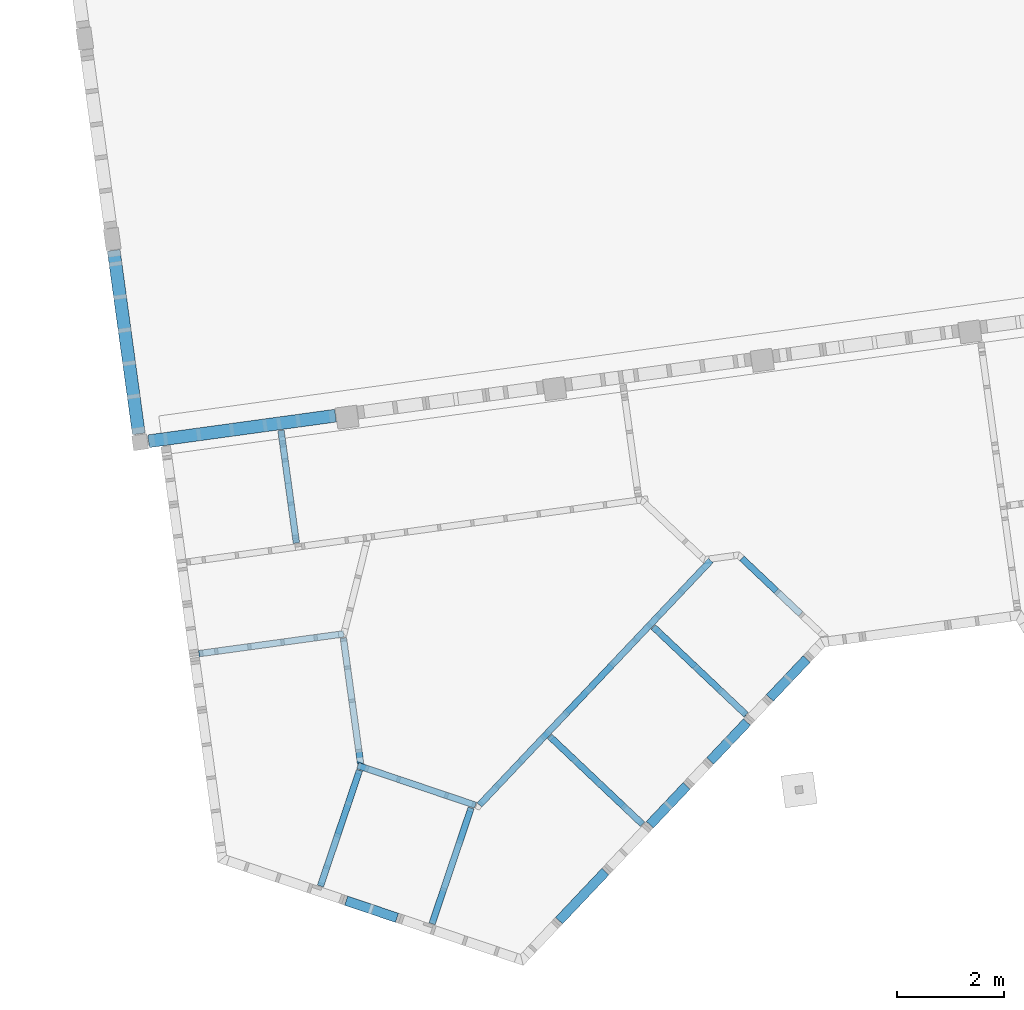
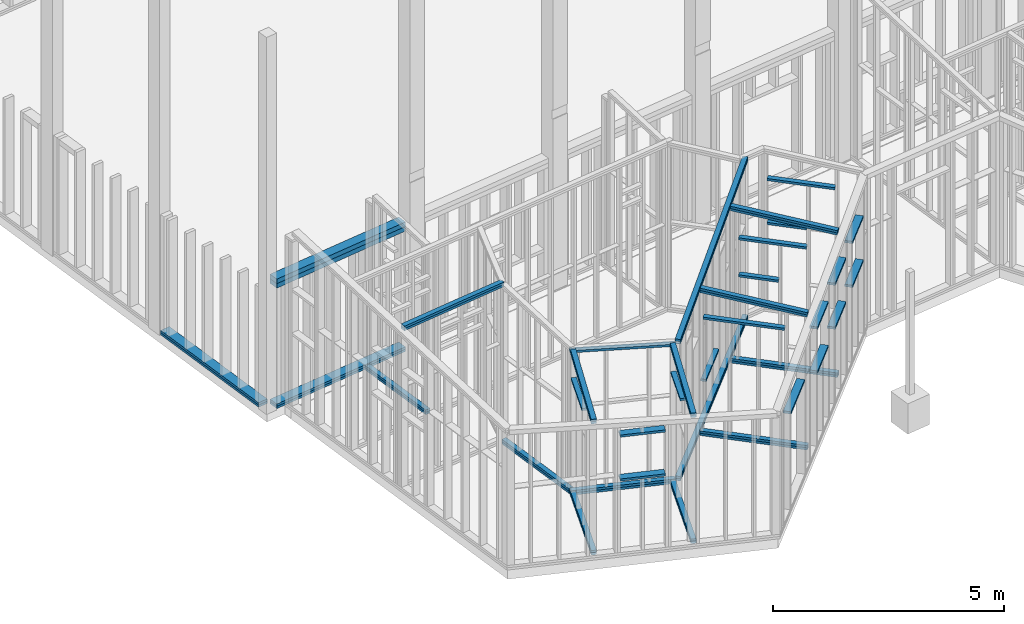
# One storey, part 10 of 24: 52 beams.
"""IFC2X3 building model written with IfcOpenShell, lengths in metres."""

from ifc_helpers import new_model, entity, si_unit, converted_unit, derived_unit, money_unit, direction, frame, frame_2d, origin_with_axes, place, context, subcontext, project, spatial, rectangle, extrude, clip, halfspace, material, type_object, element, save


model = new_model("IFC2X3")

# Units and contexts
model_context = context("Model", 3, precision=1e-05, world=origin_with_axes(), true_north=direction((0.0, 1.0)))
body_context = subcontext(model_context, "Body", "Model", "MODEL_VIEW")
ifc_project = project(units=[si_unit("LENGTHUNIT", "METRE"), si_unit("AREAUNIT", "SQUARE_METRE"), si_unit("VOLUMEUNIT", "CUBIC_METRE"), converted_unit("PLANEANGLEUNIT", "DEGREE", entity("IfcPlaneAngleMeasure", 0.0174532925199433), si_unit("PLANEANGLEUNIT", "RADIAN"), dimensions=[0, 0, 0, 0, 0, 0, 0]), money_unit("EUR"), converted_unit("TIMEUNIT", "Year", entity("IfcTimeMeasure", 31557600.0), si_unit("TIMEUNIT", "SECOND"), dimensions=[0, 0, 1, 0, 0, 0, 0]), si_unit("MASSUNIT", "GRAM", prefix="KILO"), si_unit("THERMODYNAMICTEMPERATUREUNIT", "DEGREE_CELSIUS"), si_unit("LUMINOUSINTENSITYUNIT", "LUMEN"), si_unit("ENERGYUNIT", "JOULE", prefix="MEGA"), derived_unit("THERMALCONDUCTANCEUNIT", [(si_unit("POWERUNIT", "WATT"), 1), (si_unit("LENGTHUNIT", "METRE"), -1), (si_unit("THERMODYNAMICTEMPERATUREUNIT", "KELVIN"), -1)]), derived_unit("SPECIFICHEATCAPACITYUNIT", [(si_unit("ENERGYUNIT", "JOULE"), 1), (si_unit("MASSUNIT", "GRAM", prefix="KILO"), -1), (si_unit("THERMODYNAMICTEMPERATUREUNIT", "KELVIN"), -1)]), derived_unit("MASSDENSITYUNIT", [(si_unit("MASSUNIT", "GRAM", prefix="KILO"), 1), (si_unit("VOLUMEUNIT", "CUBIC_METRE"), -1)])], contexts=[model_context])

# Site, building, storey
site_placement = place(None, origin_with_axes())
site = spatial("IfcSite", under=ifc_project, at=site_placement, Name="Gelände", CompositionType="ELEMENT")
building_placement = place(site_placement, origin_with_axes())
building = spatial("IfcBuilding", under=site, at=building_placement, Name="Gebäude", CompositionType="ELEMENT")
storey_placement = place(building_placement, origin_with_axes())
storey = spatial("IfcBuildingStorey", under=building, at=storey_placement, Name="EG", CompositionType="ELEMENT", Elevation=0.0)

# Beams
ifc_material_1 = material(Name="Bauholz")
beam_type_1 = type_object("IfcBeamType", Name="Bauholz 120 x 60", PredefinedType="NOTDEFINED")
beam_1_placement = place(storey_placement, frame((90.67211713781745, -157.198762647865, 3.000658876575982), z_axis=(0.0, 0.0, 1.0), x_axis=(-0.9474861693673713, 0.3197967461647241, 0.0)))
element("IfcBeam", 1, at=beam_1_placement, inside=storey, type_object=beam_type_1, material=ifc_material_1, Name="Unterzug-021", context=body_context, shape_type="SweptSolid", body=[
    extrude(rectangle(XDim=0.06, YDim=0.12, at=frame_2d((-0.03, 0.0), x_axis=(1.0, 0.0))), frame((0.0, 0.0, 0.0), z_axis=(0.0, 1.0, 0.0), x_axis=(0.0, 0.0, 1.0)), (0.0, 0.0, 1.0), 1.19000000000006),
])
beam_2_placement = place(storey_placement, frame((97.40844101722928, -155.6272383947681, 3.172366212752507), z_axis=(0.0, 0.0, 1.0), x_axis=(0.6874340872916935, 0.7262467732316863, 0.0)))
element("IfcBeam", 2, at=beam_2_placement, inside=storey, type_object=beam_type_1, material=ifc_material_1, Name="Unterzug-021", context=body_context, shape_type="SweptSolid", body=[
    extrude(rectangle(XDim=0.06, YDim=0.12, at=frame_2d((-0.03, 0.0), x_axis=(1.0, 0.0))), frame((0.0, 0.0, 0.0), z_axis=(0.0, 1.0, 0.0), x_axis=(0.0, 0.0, 1.0)), (0.0, 0.0, 1.0), 1.51000000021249),
])
beam_3_placement = place(storey_placement, frame((97.83368819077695, -153.1826701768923, 3.354346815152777), z_axis=(0.0, 0.0, 1.0), x_axis=(-0.68743409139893, -0.7262467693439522, 0.0)))
element("IfcBeam", 3, at=beam_3_placement, inside=storey, type_object=beam_type_1, material=ifc_material_1, Name="Unterzug-021", context=body_context, shape_type="SweptSolid", body=[
    extrude(rectangle(XDim=0.06, YDim=0.12, at=frame_2d((-0.03, 0.0), x_axis=(1.0, 0.0))), frame((0.0, 0.0, 0.0), z_axis=(0.0, 1.0, 0.0), x_axis=(0.0, 0.0, 1.0)), (0.0, 0.0, 1.0), 1.509999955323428),
])
beam_4_placement = place(storey_placement, frame((92.42188262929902, -158.8936245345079, 2.862945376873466), z_axis=(0.0, 0.0, 1.0), x_axis=(0.9474859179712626, -0.3197974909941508, 0.0)))
element("IfcBeam", 4, at=beam_4_placement, inside=storey, type_object=beam_type_1, material=ifc_material_1, Name="Unterzug-021", context=body_context, shape_type="SweptSolid", body=[
    extrude(rectangle(XDim=0.06, YDim=0.12, at=frame_2d((-0.03, 0.0), x_axis=(1.0, 0.0))), frame((0.0, 0.0, 0.0), z_axis=(0.0, 1.0, 0.0), x_axis=(0.0, 0.0, 1.0)), (0.0, 0.0, 1.0), 1.046287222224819),
])
beam_5_placement = place(storey_placement, frame((97.8336881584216, -153.182670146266, 2.195), z_axis=(0.0, 0.0, 1.0), x_axis=(-0.687434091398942, -0.7262467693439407, 0.0)))
element("IfcBeam", 5, at=beam_5_placement, inside=storey, type_object=beam_type_1, material=ifc_material_1, Name="Unterzug-021", context=body_context, shape_type="SweptSolid", body=[
    extrude(rectangle(XDim=0.06, YDim=0.12, at=frame_2d((-0.03, 0.0), x_axis=(1.0, 0.0))), frame((0.0, 0.0, 0.0), z_axis=(0.0, 1.0, 0.0), x_axis=(0.0, 0.0, 1.0)), (0.0, 0.0, 1.0), 0.8849999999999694),
])
beam_6_placement = place(storey_placement, frame((89.22474285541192, -150.7927194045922, -0.04300000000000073), z_axis=(0.0, 0.0, 1.0), x_axis=(-0.9907484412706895, -0.1357111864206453, 0.0)))
element("IfcBeam", 6, at=beam_6_placement, inside=storey, type_object=beam_type_1, material=ifc_material_1, Name="Unterzug-021", context=body_context, shape_type="SweptSolid", body=[
    extrude(rectangle(XDim=0.06, YDim=0.12, at=frame_2d((-0.03, 0.0), x_axis=(1.0, 0.0))), frame((0.0, 0.0, 0.0), z_axis=(0.0, 1.0, 0.0), x_axis=(0.0, 0.0, 1.0)), (0.0, 0.0, 1.0), 2.123133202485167),
])
beam_7_placement = place(storey_placement, frame((90.39695555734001, -154.5919188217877, 4.069764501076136), z_axis=(0.0, 0.0, 1.0), x_axis=(-0.1357111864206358, 0.9907484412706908, 0.0)))
element("IfcBeam", 7, at=beam_7_placement, inside=storey, type_object=beam_type_1, material=ifc_material_1, Name="Unterzug-021", context=body_context, shape_type="SweptSolid", body=[
    extrude(rectangle(XDim=0.06, YDim=0.12, at=frame_2d((-0.03, 0.0), x_axis=(1.0, 0.0))), frame((0.0, 0.0, 0.0), z_axis=(0.0, 1.0, 0.0), x_axis=(0.0, 0.0, 1.0)), (0.0, 0.0, 1.0), 2.730693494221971),
])
beam_8_placement = place(storey_placement, frame((90.39012743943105, -154.6685544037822, -0.04300000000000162), z_axis=(0.0, 0.0, 1.0), x_axis=(-0.9907484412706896, -0.1357111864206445, 0.0)))
element("IfcBeam", 8, at=beam_8_placement, inside=storey, type_object=beam_type_1, material=ifc_material_1, Name="Unterzug-021", context=body_context, shape_type="SweptSolid", body=[
    extrude(rectangle(XDim=0.06, YDim=0.12, at=frame_2d((-0.03, 0.0), x_axis=(1.0, 0.0))), frame((0.0, 0.0, 0.0), z_axis=(0.0, 1.0, 0.0), x_axis=(0.0, 0.0, 1.0)), (0.0, 0.0, 1.0), 2.372204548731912),
])
beam_9_placement = place(storey_placement, frame((90.69130494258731, -157.141913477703, -0.04300000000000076), z_axis=(0.0, 0.0, 1.0), x_axis=(-0.9474861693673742, 0.319796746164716, 0.0)))
element("IfcBeam", 9, at=beam_9_placement, inside=storey, type_object=beam_type_1, material=ifc_material_1, Name="Unterzug-021", context=body_context, shape_type="SweptSolid", body=[
    extrude(rectangle(XDim=0.06, YDim=0.12, at=frame_2d((-0.03, 0.0), x_axis=(1.0, 0.0))), frame((0.0, 0.0, 0.0), z_axis=(0.0, 1.0, 0.0), x_axis=(0.0, 0.0, 1.0)), (0.0, 0.0, 1.0), 2.280565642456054),
])
beam_10_placement = place(storey_placement, frame((90.69176464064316, -157.1405486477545, 3.709268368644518), z_axis=(0.0, 0.0, 1.0), x_axis=(-0.9474861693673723, 0.3197967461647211, 0.0)))
element("IfcBeam", 10, at=beam_10_placement, inside=storey, type_object=beam_type_1, material=ifc_material_1, Name="Unterzug-021", context=body_context, shape_type="Clipping", body=[
    clip(clip(extrude(rectangle(XDim=0.06, YDim=0.12, at=frame_2d((-0.03, 0.0), x_axis=(1.0, 0.0))), frame((0.0, -0.02118675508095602, 0.002665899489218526), z_axis=(0.0, 0.9921763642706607, -0.1248441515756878), x_axis=(0.0, 0.1248441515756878, 0.9921763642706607)), (0.0, 0.0, 1.0), 2.343707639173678), halfspace(frame((0.0, 0.0, 0.0), z_axis=(0.0, 1.0, 0.0), x_axis=(0.0, 0.0, 1.0)), True)), halfspace(frame((0.0, 2.282997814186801, 0.0), z_axis=(0.0, -1.0, 0.0), x_axis=(0.0, 0.0, -1.0)), True)),
])
beam_11_placement = place(storey_placement, frame((90.65844060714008, -157.0516641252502, -0.04300000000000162), z_axis=(0.0, 0.0, 1.0), x_axis=(-0.3197980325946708, -0.9474857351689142, 0.0)))
element("IfcBeam", 11, at=beam_11_placement, inside=storey, type_object=beam_type_1, material=ifc_material_1, Name="Unterzug-021", context=body_context, shape_type="SweptSolid", body=[
    extrude(rectangle(XDim=0.06, YDim=0.12, at=frame_2d((-0.03, 0.0), x_axis=(1.0, 0.0))), frame((0.0, 0.0, 0.0), z_axis=(0.0, 1.0, 0.0), x_axis=(0.0, 0.0, 1.0)), (0.0, 0.0, 1.0), 2.319890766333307),
])
beam_12_placement = place(storey_placement, frame((92.04635132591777, -160.0062368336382, -0.04300000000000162), z_axis=(0.0, 0.0, 1.0), x_axis=(0.9474859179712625, -0.3197974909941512, 0.0)))
element("IfcBeam", 12, at=beam_12_placement, inside=storey, type_object=beam_type_1, material=ifc_material_1, Name="Unterzug-021", context=body_context, shape_type="SweptSolid", body=[
    extrude(rectangle(XDim=0.06, YDim=0.12, at=frame_2d((-0.03, 0.0), x_axis=(1.0, 0.0))), frame((0.0, 0.0, 0.0), z_axis=(0.0, 1.0, 0.0), x_axis=(0.0, 0.0, 1.0)), (0.0, 0.0, 1.0), 2.280565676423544),
])
beam_13_placement = place(storey_placement, frame((92.04603296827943, -160.0071765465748, 3.28428780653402), z_axis=(0.0, 0.0, 1.0), x_axis=(0.9474859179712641, -0.3197974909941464, 0.0)))
element("IfcBeam", 13, at=beam_13_placement, inside=storey, type_object=beam_type_1, material=ifc_material_1, Name="Unterzug-021", context=body_context, shape_type="Clipping", body=[
    clip(clip(extrude(rectangle(XDim=0.06, YDim=0.12, at=frame_2d((-0.03, 0.0), x_axis=(1.0, 0.0))), frame((0.0, -0.02118682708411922, -0.002665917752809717), z_axis=(0.0, 0.9921763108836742, 0.1248445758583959), x_axis=(0.0, -0.1248445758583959, 0.9921763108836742)), (0.0, 0.0, 1.0), 2.343707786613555), halfspace(frame((0.0, 0.0, 0.0), z_axis=(0.0, 1.0, 0.0), x_axis=(0.0, 0.0, 1.0)), True)), halfspace(frame((0.0, 2.282997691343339, 0.0), z_axis=(0.0, -1.0, 0.0), x_axis=(0.0, 0.0, -1.0)), True)),
])
beam_14_placement = place(storey_placement, frame((92.93102075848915, -157.7887322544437, 3.576305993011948), z_axis=(0.0, 0.0, 1.0), x_axis=(0.7262467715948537, -0.6874340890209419, 0.0)))
element("IfcBeam", 14, at=beam_14_placement, inside=storey, type_object=beam_type_1, material=ifc_material_1, Name="Unterzug-021", context=body_context, shape_type="Clipping", body=[
    clip(clip(extrude(rectangle(XDim=0.06, YDim=0.12, at=frame_2d((-0.03, 0.0), x_axis=(1.0, 0.0))), frame((0.0, -0.0148785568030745, -0.001309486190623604), z_axis=(0.0, 0.9961493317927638, 0.0876727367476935), x_axis=(0.0, -0.0876727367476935, 0.9961493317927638)), (0.0, 0.0, 1.0), 6.342872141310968), halfspace(frame((0.0, 0.0, 0.0), z_axis=(0.0, 1.0, 0.0), x_axis=(0.0, 0.0, 1.0)), True)), halfspace(frame((0.0, 6.288690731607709, 0.0), z_axis=(0.0, -1.0, 0.0), x_axis=(0.0, 0.0, -1.0)), True)),
])
beam_15_placement = place(storey_placement, frame((92.93170554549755, -157.7880088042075, -0.04300000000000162), z_axis=(0.0, 0.0, 1.0), x_axis=(0.7262467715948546, -0.6874340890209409, 0.0)))
element("IfcBeam", 15, at=beam_15_placement, inside=storey, type_object=beam_type_1, material=ifc_material_1, Name="Unterzug-021", context=body_context, shape_type="SweptSolid", body=[
    extrude(rectangle(XDim=0.06, YDim=0.12, at=frame_2d((-0.03, 0.0), x_axis=(1.0, 0.0))), frame((0.0, 0.0, 0.0), z_axis=(0.0, 1.0, 0.0), x_axis=(0.0, 0.0, 1.0)), (0.0, 0.0, 1.0), 6.286692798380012),
])
beam_16_placement = place(storey_placement, frame((95.97797870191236, -158.1493170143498, 3.467983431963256), z_axis=(0.0, 0.0, 1.0), x_axis=(0.6874340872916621, 0.726246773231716, 0.0)))
element("IfcBeam", 16, at=beam_16_placement, inside=storey, type_object=beam_type_1, material=ifc_material_1, Name="Unterzug-021", context=body_context, shape_type="Clipping", body=[
    clip(clip(extrude(rectangle(XDim=0.06, YDim=0.12, at=frame_2d((-0.03, 0.0), x_axis=(1.0, 0.0))), frame((0.0, -0.01848409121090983, -0.002025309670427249), z_axis=(0.0, 0.9940506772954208, 0.1089185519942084), x_axis=(0.0, -0.1089185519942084, 0.9940506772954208)), (0.0, 0.0, 1.0), 2.438189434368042), halfspace(frame((0.0, 0.0, 0.0), z_axis=(0.0, 1.0, 0.0), x_axis=(0.0, 0.0, 1.0)), True)), halfspace(frame((0.0, 2.386715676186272, 0.0), z_axis=(0.0, -1.0, 0.0), x_axis=(0.0, 0.0, -1.0)), True)),
])
beam_17_placement = place(storey_placement, frame((95.97739476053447, -158.1487642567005, -0.0430000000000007), z_axis=(0.0, 0.0, 1.0), x_axis=(0.6874340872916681, 0.7262467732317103, 0.0)))
element("IfcBeam", 17, at=beam_17_placement, inside=storey, type_object=beam_type_1, material=ifc_material_1, Name="Unterzug-021", context=body_context, shape_type="SweptSolid", body=[
    extrude(rectangle(XDim=0.06, YDim=0.12, at=frame_2d((-0.03, 0.0), x_axis=(1.0, 0.0))), frame((0.0, 0.0, 0.0), z_axis=(0.0, 1.0, 0.0), x_axis=(0.0, 0.0, 1.0)), (0.0, 0.0, 1.0), 2.384917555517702),
])
beam_18_placement = place(storey_placement, frame((97.91252172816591, -156.104379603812, -0.04300000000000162), z_axis=(0.0, 0.0, 1.0), x_axis=(0.687434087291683, 0.7262467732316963, 0.0)))
element("IfcBeam", 18, at=beam_18_placement, inside=storey, type_object=beam_type_1, material=ifc_material_1, Name="Unterzug-021", context=body_context, shape_type="SweptSolid", body=[
    extrude(rectangle(XDim=0.06, YDim=0.12, at=frame_2d((-0.03, 0.0), x_axis=(1.0, 0.0))), frame((0.0, 0.0, 0.0), z_axis=(0.0, 1.0, 0.0), x_axis=(0.0, 0.0, 1.0)), (0.0, 0.0, 1.0), 2.384917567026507),
])
beam_19_placement = place(storey_placement, frame((97.91310573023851, -156.1049323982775, 3.715736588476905), z_axis=(0.0, 0.0, 1.0), x_axis=(0.6874340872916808, 0.7262467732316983, 0.0)))
element("IfcBeam", 19, at=beam_19_placement, inside=storey, type_object=beam_type_1, material=ifc_material_1, Name="Unterzug-021", context=body_context, shape_type="Clipping", body=[
    clip(clip(extrude(rectangle(XDim=0.06, YDim=0.12, at=frame_2d((-0.03, 0.0), x_axis=(1.0, 0.0))), frame((0.0, -0.01848403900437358, -0.002025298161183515), z_axis=(0.0, 0.9940507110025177, 0.1089182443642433), x_axis=(0.0, -0.1089182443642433, 0.9940507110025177)), (0.0, 0.0, 1.0), 2.43818932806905), halfspace(frame((0.0, 0.0, 0.0), z_axis=(0.0, 1.0, 0.0), x_axis=(0.0, 0.0, 1.0)), True)), halfspace(frame((0.0, 2.386715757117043, 0.0), z_axis=(0.0, -1.0, 0.0), x_axis=(0.0, 0.0, -1.0)), True)),
])
beam_20_placement = place(storey_placement, frame((96.95453678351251, -155.1975920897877, 2.195), z_axis=(0.0, 0.0, 1.0), x_axis=(0.6874340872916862, 0.7262467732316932, 0.0)))
element("IfcBeam", 20, at=beam_20_placement, inside=storey, type_object=beam_type_1, material=ifc_material_1, Name="Unterzug-021", context=body_context, shape_type="SweptSolid", body=[
    extrude(rectangle(XDim=0.06, YDim=0.12, at=frame_2d((-0.03, 0.0), x_axis=(1.0, 0.0))), frame((0.0, 0.0, 0.0), z_axis=(0.0, 1.0, 0.0), x_axis=(0.0, 0.0, 1.0)), (0.0, 0.0, 1.0), 0.8850000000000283),
])
beam_21_placement = place(storey_placement, frame((95.60706878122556, -157.7982295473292, 2.974614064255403), z_axis=(0.0, 0.0, 1.0), x_axis=(0.6874340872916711, 0.7262467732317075, 0.0)))
element("IfcBeam", 21, at=beam_21_placement, inside=storey, type_object=beam_type_1, material=ifc_material_1, Name="Unterzug-021", context=body_context, shape_type="SweptSolid", body=[
    extrude(rectangle(XDim=0.06, YDim=0.12, at=frame_2d((-0.03, 0.0), x_axis=(1.0, 0.0))), frame((0.0, 0.0, 0.0), z_axis=(0.0, 1.0, 0.0), x_axis=(0.0, 0.0, 1.0)), (0.0, 0.0, 1.0), 1.815000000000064),
])
beam_22_placement = place(storey_placement, frame((94.57527869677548, -156.0516391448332, 0.8919999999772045), z_axis=(0.0, 0.0, 1.0), x_axis=(0.7262467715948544, -0.6874340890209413, 0.0)))
element("IfcBeam", 22, at=beam_22_placement, inside=storey, type_object=beam_type_1, material=ifc_material_1, Name="Unterzug-021", context=body_context, shape_type="SweptSolid", body=[
    extrude(rectangle(XDim=0.06, YDim=0.12, at=frame_2d((-0.03, 0.0), x_axis=(1.0, 0.0))), frame((0.0, 0.0, 0.0), z_axis=(0.0, 1.0, 0.0), x_axis=(0.0, 0.0, 1.0)), (0.0, 0.0, 1.0), 1.189999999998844),
])
ifc_material_2 = material(Name="Holz, Bauholz")
beam_type_2 = type_object("IfcBeamType", Name="Holz, Bauholz 240 x 60", PredefinedType="NOTDEFINED")
beam_23_placement = place(storey_placement, frame((90.24360296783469, -150.5168969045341, -0.08800000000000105), z_axis=(0.0, 0.0, 1.0), x_axis=(-0.1357111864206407, 0.9907484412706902, 0.0)))
element("IfcBeam", 23, at=beam_23_placement, inside=storey, type_object=beam_type_2, material=ifc_material_2, Name="Unterzug-021", context=body_context, shape_type="SweptSolid", body=[
    extrude(rectangle(XDim=0.06, YDim=0.24, at=frame_2d((-0.03, 0.0), x_axis=(1.0, 0.0))), frame((0.0, 0.0, 0.0), z_axis=(0.0, 1.0, 0.0), x_axis=(0.0, 0.0, 1.0)), (0.0, 0.0, 1.0), 3.524285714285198),
])
beam_24_placement = place(storey_placement, frame((86.09987523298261, -147.4286763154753, -0.08800000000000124), z_axis=(0.0, 0.0, 1.0), x_axis=(-0.9907484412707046, -0.135711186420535, 0.0)))
element("IfcBeam", 24, at=beam_24_placement, inside=storey, type_object=beam_type_2, material=ifc_material_2, Name="Unterzug-021", context=body_context, shape_type="SweptSolid", body=[
    extrude(rectangle(XDim=0.06, YDim=0.24, at=frame_2d((-0.03, 0.0), x_axis=(1.0, 0.0))), frame((0.0, 0.0, 0.0), z_axis=(0.0, 1.0, 0.0), x_axis=(0.0, 0.0, 1.0)), (0.0, 0.0, 1.0), 3.459999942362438),
])
beam_type_3 = type_object("IfcBeamType", Name="Bauholz 240 x 60", PredefinedType="NOTDEFINED")
beam_25_placement = place(storey_placement, frame((90.24360296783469, -150.5168969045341, -0.02800000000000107), z_axis=(0.0, 0.0, 1.0), x_axis=(-0.1357111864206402, 0.9907484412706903, 0.0)))
element("IfcBeam", 25, at=beam_25_placement, inside=storey, type_object=beam_type_3, material=ifc_material_1, Name="Unterzug-021", context=body_context, shape_type="SweptSolid", body=[
    extrude(rectangle(XDim=0.06, YDim=0.24, at=frame_2d((-0.03, 0.0), x_axis=(1.0, 0.0))), frame((0.0, 0.0, 0.0), z_axis=(0.0, 1.0, 0.0), x_axis=(0.0, 0.0, 1.0)), (0.0, 0.0, 1.0), 3.524285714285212),
])
beam_type_4 = type_object("IfcBeamType", Name="Holz, Bauholz 120 x 60", PredefinedType="NOTDEFINED")
beam_26_placement = place(storey_placement, frame((90.69130408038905, -157.1419131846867, 3.648614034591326), z_axis=(0.0, 0.0, 1.0), x_axis=(-0.9474861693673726, 0.3197967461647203, 0.0)))
element("IfcBeam", 26, at=beam_26_placement, inside=storey, type_object=beam_type_4, material=ifc_material_2, Name="Unterzug-021", context=body_context, shape_type="Clipping", body=[
    clip(clip(extrude(rectangle(XDim=0.06, YDim=0.12, at=frame_2d((-0.03, 0.0), x_axis=(1.0, 0.0))), frame((0.0, -0.02118675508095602, 0.002665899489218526), z_axis=(0.0, 0.9921763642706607, -0.1248441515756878), x_axis=(0.0, 0.1248441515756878, 0.9921763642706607)), (0.0, 0.0, 1.0), 2.341256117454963), halfspace(frame((0.0, 0.0, 0.0), z_axis=(0.0, 1.0, 0.0), x_axis=(0.0, 0.0, 1.0)), True)), halfspace(frame((0.0, 2.280565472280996, 0.0), z_axis=(0.0, -1.0, 0.0), x_axis=(0.0, 0.0, -1.0)), True)),
])
beam_27_placement = place(storey_placement, frame((89.22474285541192, -150.7927194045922, -0.1030000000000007), z_axis=(0.0, 0.0, 1.0), x_axis=(-0.9907484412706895, -0.1357111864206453, 0.0)))
element("IfcBeam", 27, at=beam_27_placement, inside=storey, type_object=beam_type_4, material=ifc_material_2, Name="Unterzug-021", context=body_context, shape_type="SweptSolid", body=[
    extrude(rectangle(XDim=0.06, YDim=0.12, at=frame_2d((-0.03, 0.0), x_axis=(1.0, 0.0))), frame((0.0, 0.0, 0.0), z_axis=(0.0, 1.0, 0.0), x_axis=(0.0, 0.0, 1.0)), (0.0, 0.0, 1.0), 2.123133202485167),
])
beam_28_placement = place(storey_placement, frame((90.39012743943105, -154.6685544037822, -0.1030000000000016), z_axis=(0.0, 0.0, 1.0), x_axis=(-0.9907484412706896, -0.1357111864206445, 0.0)))
element("IfcBeam", 28, at=beam_28_placement, inside=storey, type_object=beam_type_4, material=ifc_material_2, Name="Unterzug-021", context=body_context, shape_type="SweptSolid", body=[
    extrude(rectangle(XDim=0.06, YDim=0.12, at=frame_2d((-0.03, 0.0), x_axis=(1.0, 0.0))), frame((0.0, 0.0, 0.0), z_axis=(0.0, 1.0, 0.0), x_axis=(0.0, 0.0, 1.0)), (0.0, 0.0, 1.0), 2.372204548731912),
])
beam_29_placement = place(storey_placement, frame((90.69130494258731, -157.141913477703, -0.1030000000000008), z_axis=(0.0, 0.0, 1.0), x_axis=(-0.9474861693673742, 0.319796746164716, 0.0)))
element("IfcBeam", 29, at=beam_29_placement, inside=storey, type_object=beam_type_4, material=ifc_material_2, Name="Unterzug-021", context=body_context, shape_type="SweptSolid", body=[
    extrude(rectangle(XDim=0.06, YDim=0.12, at=frame_2d((-0.03, 0.0), x_axis=(1.0, 0.0))), frame((0.0, 0.0, 0.0), z_axis=(0.0, 1.0, 0.0), x_axis=(0.0, 0.0, 1.0)), (0.0, 0.0, 1.0), 2.280565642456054),
])
beam_30_placement = place(storey_placement, frame((90.65844060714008, -157.0516641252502, -0.1030000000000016), z_axis=(0.0, 0.0, 1.0), x_axis=(-0.3197980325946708, -0.9474857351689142, 0.0)))
element("IfcBeam", 30, at=beam_30_placement, inside=storey, type_object=beam_type_4, material=ifc_material_2, Name="Unterzug-021", context=body_context, shape_type="SweptSolid", body=[
    extrude(rectangle(XDim=0.06, YDim=0.12, at=frame_2d((-0.03, 0.0), x_axis=(1.0, 0.0))), frame((0.0, 0.0, 0.0), z_axis=(0.0, 1.0, 0.0), x_axis=(0.0, 0.0, 1.0)), (0.0, 0.0, 1.0), 2.319890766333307),
])
beam_31_placement = place(storey_placement, frame((92.04635132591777, -160.0062368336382, -0.1030000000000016), z_axis=(0.0, 0.0, 1.0), x_axis=(0.9474859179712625, -0.3197974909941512, 0.0)))
element("IfcBeam", 31, at=beam_31_placement, inside=storey, type_object=beam_type_4, material=ifc_material_2, Name="Unterzug-021", context=body_context, shape_type="SweptSolid", body=[
    extrude(rectangle(XDim=0.06, YDim=0.12, at=frame_2d((-0.03, 0.0), x_axis=(1.0, 0.0))), frame((0.0, 0.0, 0.0), z_axis=(0.0, 1.0, 0.0), x_axis=(0.0, 0.0, 1.0)), (0.0, 0.0, 1.0), 2.280565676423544),
])
beam_32_placement = place(storey_placement, frame((92.93170554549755, -157.7880088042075, -0.1030000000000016), z_axis=(0.0, 0.0, 1.0), x_axis=(0.7262467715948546, -0.6874340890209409, 0.0)))
element("IfcBeam", 32, at=beam_32_placement, inside=storey, type_object=beam_type_4, material=ifc_material_2, Name="Unterzug-021", context=body_context, shape_type="SweptSolid", body=[
    extrude(rectangle(XDim=0.06, YDim=0.12, at=frame_2d((-0.03, 0.0), x_axis=(1.0, 0.0))), frame((0.0, 0.0, 0.0), z_axis=(0.0, 1.0, 0.0), x_axis=(0.0, 0.0, 1.0)), (0.0, 0.0, 1.0), 6.286692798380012),
])
beam_33_placement = place(storey_placement, frame((95.97739476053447, -158.1487642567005, -0.1030000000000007), z_axis=(0.0, 0.0, 1.0), x_axis=(0.6874340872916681, 0.7262467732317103, 0.0)))
element("IfcBeam", 33, at=beam_33_placement, inside=storey, type_object=beam_type_4, material=ifc_material_2, Name="Unterzug-021", context=body_context, shape_type="SweptSolid", body=[
    extrude(rectangle(XDim=0.06, YDim=0.12, at=frame_2d((-0.03, 0.0), x_axis=(1.0, 0.0))), frame((0.0, 0.0, 0.0), z_axis=(0.0, 1.0, 0.0), x_axis=(0.0, 0.0, 1.0)), (0.0, 0.0, 1.0), 2.384917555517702),
])
beam_34_placement = place(storey_placement, frame((97.91252172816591, -156.104379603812, -0.1030000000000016), z_axis=(0.0, 0.0, 1.0), x_axis=(0.687434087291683, 0.7262467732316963, 0.0)))
element("IfcBeam", 34, at=beam_34_placement, inside=storey, type_object=beam_type_4, material=ifc_material_2, Name="Unterzug-021", context=body_context, shape_type="SweptSolid", body=[
    extrude(rectangle(XDim=0.06, YDim=0.12, at=frame_2d((-0.03, 0.0), x_axis=(1.0, 0.0))), frame((0.0, 0.0, 0.0), z_axis=(0.0, 1.0, 0.0), x_axis=(0.0, 0.0, 1.0)), (0.0, 0.0, 1.0), 2.384917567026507),
])
beam_35_placement = place(storey_placement, frame((92.93170554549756, -157.7880088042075, 3.516161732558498), z_axis=(0.0, 0.0, 1.0), x_axis=(0.7262467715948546, -0.6874340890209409, 0.0)))
element("IfcBeam", 35, at=beam_35_placement, inside=storey, type_object=beam_type_4, material=ifc_material_2, Name="Unterzug-021", context=body_context, shape_type="Clipping", body=[
    clip(clip(extrude(rectangle(XDim=0.06, YDim=0.12, at=frame_2d((-0.03, 0.0), x_axis=(1.0, 0.0))), frame((0.0, -0.0148785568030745, -0.001309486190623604), z_axis=(0.0, 0.9961493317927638, 0.0876727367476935), x_axis=(0.0, -0.0876727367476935, 0.9961493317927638)), (0.0, 0.0, 1.0), 6.34086648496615), halfspace(frame((0.0, 0.0, 0.0), z_axis=(0.0, 1.0, 0.0), x_axis=(0.0, 0.0, 1.0)), True)), halfspace(frame((0.0, 6.286692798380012, 0.0), z_axis=(0.0, -1.0, 0.0), x_axis=(0.0, 0.0, -1.0)), True)),
])
beam_36_placement = place(storey_placement, frame((90.65844057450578, -157.0516642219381, 3.662163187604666), z_axis=(0.0, 0.0, 1.0), x_axis=(-0.3197980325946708, -0.9474857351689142, 0.0)))
element("IfcBeam", 36, at=beam_36_placement, inside=storey, type_object=beam_type_4, material=ifc_material_2, Name="Unterzug-021", context=body_context, shape_type="Clipping", body=[
    clip(clip(extrude(rectangle(XDim=0.06, YDim=0.12, at=frame_2d((-0.03, 0.0), x_axis=(1.0, 0.0))), frame((0.0, -0.01060285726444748, 0.0006637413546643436), z_axis=(0.0, 0.9980463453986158, -0.06247793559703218), x_axis=(0.0, 0.06247793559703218, 0.9980463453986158)), (0.0, 0.0, 1.0), 2.345679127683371), halfspace(frame((0.0, 0.0, 0.0), z_axis=(0.0, 1.0, 0.0), x_axis=(0.0, 0.0, 1.0)), True)), halfspace(frame((0.0, 2.319890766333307, 0.0), z_axis=(0.0, -1.0, 0.0), x_axis=(0.0, 0.0, -1.0)), True)),
])
beam_37_placement = place(storey_placement, frame((92.04635026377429, -160.0062364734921, 3.223939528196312), z_axis=(0.0, 0.0, 1.0), x_axis=(0.9474859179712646, -0.3197974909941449, 0.0)))
element("IfcBeam", 37, at=beam_37_placement, inside=storey, type_object=beam_type_4, material=ifc_material_2, Name="Unterzug-021", context=body_context, shape_type="Clipping", body=[
    clip(clip(extrude(rectangle(XDim=0.06, YDim=0.12, at=frame_2d((-0.03, 0.0), x_axis=(1.0, 0.0))), frame((0.0, -0.02118682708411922, -0.002665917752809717), z_axis=(0.0, 0.9921763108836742, 0.1248445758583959), x_axis=(0.0, -0.1248445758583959, 0.9921763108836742)), (0.0, 0.0, 1.0), 2.341256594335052), halfspace(frame((0.0, 0.0, 0.0), z_axis=(0.0, 1.0, 0.0), x_axis=(0.0, 0.0, 1.0)), True)), halfspace(frame((0.0, 2.280565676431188, 0.0), z_axis=(0.0, -1.0, 0.0), x_axis=(0.0, 0.0, -1.0)), True)),
])
beam_38_placement = place(storey_placement, frame((95.97737686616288, -158.1487473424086, 3.407715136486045), z_axis=(0.0, 0.0, 1.0), x_axis=(0.6874340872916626, 0.7262467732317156, 0.0)))
element("IfcBeam", 38, at=beam_38_placement, inside=storey, type_object=beam_type_4, material=ifc_material_2, Name="Unterzug-021", context=body_context, shape_type="Clipping", body=[
    clip(clip(extrude(rectangle(XDim=0.06, YDim=0.12, at=frame_2d((-0.03, 0.0), x_axis=(1.0, 0.0))), frame((0.0, -0.01848409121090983, -0.002025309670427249), z_axis=(0.0, 0.9940506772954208, 0.1089185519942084), x_axis=(0.0, -0.1089185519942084, 0.9940506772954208)), (0.0, 0.0, 1.0), 2.436355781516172), halfspace(frame((0.0, 0.0, 0.0), z_axis=(0.0, 1.0, 0.0), x_axis=(0.0, 0.0, 1.0)), True)), halfspace(frame((0.0, 2.384892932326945, 0.0), z_axis=(0.0, -1.0, 0.0), x_axis=(0.0, 0.0, -1.0)), True)),
])
beam_39_placement = place(storey_placement, frame((97.91252172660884, -156.104379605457, 3.655465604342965), z_axis=(0.0, 0.0, 1.0), x_axis=(0.6874340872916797, 0.7262467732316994, 0.0)))
element("IfcBeam", 39, at=beam_39_placement, inside=storey, type_object=beam_type_4, material=ifc_material_2, Name="Unterzug-021", context=body_context, shape_type="Clipping", body=[
    clip(clip(extrude(rectangle(XDim=0.06, YDim=0.12, at=frame_2d((-0.03, 0.0), x_axis=(1.0, 0.0))), frame((0.0, -0.01848403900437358, -0.002025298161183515), z_axis=(0.0, 0.9940507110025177, 0.1089182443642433), x_axis=(0.0, -0.1089182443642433, 0.9940507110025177)), (0.0, 0.0, 1.0), 2.436380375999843), halfspace(frame((0.0, 0.0, 0.0), z_axis=(0.0, 1.0, 0.0), x_axis=(0.0, 0.0, 1.0)), True)), halfspace(frame((0.0, 2.384917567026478, 0.0), z_axis=(0.0, -1.0, 0.0), x_axis=(0.0, 0.0, -1.0)), True)),
])
beam_40_placement = place(storey_placement, frame((90.39838956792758, -154.5917223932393, 4.009764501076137), z_axis=(0.0, 0.0, 1.0), x_axis=(-0.1357111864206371, 0.9907484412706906, 0.0)))
element("IfcBeam", 40, at=beam_40_placement, inside=storey, type_object=beam_type_4, material=ifc_material_2, Name="Unterzug-021", context=body_context, shape_type="SweptSolid", body=[
    extrude(rectangle(XDim=0.06, YDim=0.12, at=frame_2d((-0.03, 0.0), x_axis=(1.0, 0.0))), frame((0.0, 0.0, 0.0), z_axis=(0.0, 1.0, 0.0), x_axis=(0.0, 0.0, 1.0)), (0.0, 0.0, 1.0), 2.73214089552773),
])
beam_type_5 = type_object("IfcBeamType", Name="Holz, Bauholz 240 x 120", PredefinedType="NOTDEFINED")
beam_41_placement = place(storey_placement, frame((90.24360296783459, -150.5168969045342, 3.272000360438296), z_axis=(0.0, 0.0, 1.0), x_axis=(-0.1357111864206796, 0.9907484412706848, 0.0)))
element("IfcBeam", 41, at=beam_41_placement, inside=storey, type_object=beam_type_5, material=ifc_material_2, Name="Unterzug-021", context=body_context, shape_type="SweptSolid", body=[
    extrude(rectangle(XDim=0.1200003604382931, YDim=0.24, at=frame_2d((-0.06000018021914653, 0.0), x_axis=(1.0, 0.0))), frame((0.0, 0.0, 0.0), z_axis=(0.0, 1.0, 0.0), x_axis=(0.0, 0.0, 1.0)), (0.0, 0.0, 1.0), 3.524285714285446),
])
ifc_material_3 = material(Name="Holz, Bauholz-hart")
beam_type_6 = type_object("IfcBeamType", Name="Holz, Bauholz-hart 240 x 60", PredefinedType="NOTDEFINED")
beam_42_placement = place(storey_placement, frame((86.09987523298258, -147.4286763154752, -0.02800000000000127), z_axis=(0.0, 0.0, 1.0), x_axis=(-0.990748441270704, -0.135711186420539, 0.0)))
element("IfcBeam", 42, at=beam_42_placement, inside=storey, type_object=beam_type_6, material=ifc_material_3, Name="Unterzug-021", context=body_context, shape_type="SweptSolid", body=[
    extrude(rectangle(XDim=0.06, YDim=0.24, at=frame_2d((-0.03, 0.0), x_axis=(1.0, 0.0))), frame((0.0, 0.0, 0.0), z_axis=(0.0, 1.0, 0.0), x_axis=(0.0, 0.0, 1.0)), (0.0, 0.0, 1.0), 3.45999994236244),
])
beam_type_7 = type_object("IfcBeamType", Name="Holz, Bauholz-hart 240 x 120", PredefinedType="NOTDEFINED")
beam_43_placement = place(storey_placement, frame((90.24360296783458, -150.5168969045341, 3.152000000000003), z_axis=(0.0, 0.0, 1.0), x_axis=(-0.1357111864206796, 0.9907484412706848, 0.0)))
element("IfcBeam", 43, at=beam_43_placement, inside=storey, type_object=beam_type_7, material=ifc_material_3, Name="Unterzug-021", context=body_context, shape_type="SweptSolid", body=[
    extrude(rectangle(XDim=0.1200003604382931, YDim=0.24, at=frame_2d((-0.06000018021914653, 0.0), x_axis=(1.0, 0.0))), frame((0.0, 0.0, 0.0), z_axis=(0.0, 1.0, 0.0), x_axis=(0.0, 0.0, 1.0)), (0.0, 0.0, 1.0), 3.524285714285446),
])
beam_type_8 = type_object("IfcBeamType", Name="Bauholz 180 x 60", PredefinedType="NOTDEFINED")
beam_44_placement = place(storey_placement, frame((96.11380114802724, -158.1573982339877, 3.020054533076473), z_axis=(0.0, 0.0, 1.0), x_axis=(0.7262467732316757, -0.6874340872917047, 0.0)))
element("IfcBeam", 44, at=beam_44_placement, inside=storey, type_object=beam_type_8, material=ifc_material_1, Name="Unterzug-021", context=body_context, shape_type="SweptSolid", body=[
    extrude(rectangle(XDim=0.06, YDim=0.18, at=frame_2d((-0.03, 0.0), x_axis=(1.0, 0.0))), frame((0.0, 0.0, 0.0), z_axis=(0.0, 1.0, 0.0), x_axis=(0.0, 0.0, 1.0)), (0.0, 0.0, 1.0), 0.9999999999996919),
])
beam_45_placement = place(storey_placement, frame((94.41857901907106, -159.9483329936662, 2.46), z_axis=(0.0, 0.0, 1.0), x_axis=(0.7262467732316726, -0.687434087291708, 0.0)))
element("IfcBeam", 45, at=beam_45_placement, inside=storey, type_object=beam_type_8, material=ifc_material_1, Name="Unterzug-021", context=body_context, shape_type="SweptSolid", body=[
    extrude(rectangle(XDim=0.06, YDim=0.18, at=frame_2d((-0.03, 0.0), x_axis=(1.0, 0.0))), frame((0.0, 0.0, 0.0), z_axis=(0.0, 1.0, 0.0), x_axis=(0.0, 0.0, 1.0)), (0.0, 0.0, 1.0), 1.259999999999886),
])
for number, where, z_axis, x_axis, name in (
    (46, (96.11380114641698, -158.1573982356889, 1.860054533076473), (0.0, 0.0, 1.0), (0.7262467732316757, -0.6874340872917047, 0.0), "Unterzug-021"),
    (47, (97.24119304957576, -156.966353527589, 1.9), (0.0, 0.0, 1.0), (0.7262467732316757, -0.6874340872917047, 0.0), "Unterzug-021"),
    (48, (98.35576058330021, -155.7888572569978, 3.06), (0.0, 0.0, 1.0), (0.7262467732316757, -0.6874340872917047, 0.0), "Unterzug-021"),
    (49, (97.24119304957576, -156.966353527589, 3.06), (0.0, 0.0, 1.0), (0.7262467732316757, -0.6874340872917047, 0.0), "Unterzug-021"),
    (50, (98.35576058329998, -155.788857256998, 1.9), (0.0, 0.0, 1.0), (0.7262467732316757, -0.6874340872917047, 0.0), "Unterzug-021"),
):
    element("IfcBeam", number, at=place(storey_placement, frame(where, z_axis=z_axis, x_axis=x_axis)), inside=storey, type_object=beam_type_8, material=ifc_material_1, Name=name, context=body_context, shape_type="SweptSolid", body=[
        extrude(rectangle(XDim=0.06, YDim=0.18, at=frame_2d((-0.03, 0.0), x_axis=(1.0, 0.0))), frame((0.0, 0.0, 0.0), z_axis=(0.0, 1.0, 0.0), x_axis=(0.0, 0.0, 1.0)), (0.0, 0.0, 1.0), 0.9999999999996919),
    ])
for number, where, z_axis, x_axis, name in (
    (51, (90.44328046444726, -159.5759844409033, 1.9), (0.0, 0.0, 1.0), (-0.319797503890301, -0.947485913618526, 0.0), "Unterzug-021"),
    (52, (90.44328046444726, -159.5759844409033, 3.06), (0.0, 0.0, 1.0), (-0.319797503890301, -0.947485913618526, 0.0), "Unterzug-021"),
):
    element("IfcBeam", number, at=place(storey_placement, frame(where, z_axis=z_axis, x_axis=x_axis)), inside=storey, type_object=beam_type_8, material=ifc_material_1, Name=name, context=body_context, shape_type="SweptSolid", body=[
        extrude(rectangle(XDim=0.06, YDim=0.18, at=frame_2d((-0.03, 0.0), x_axis=(1.0, 0.0))), frame((0.0, 0.0, 0.0), z_axis=(0.0, 1.0, 0.0), x_axis=(0.0, 0.0, 1.0)), (0.0, 0.0, 1.0), 0.9999999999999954),
    ])

save(model, "model.ifc")
